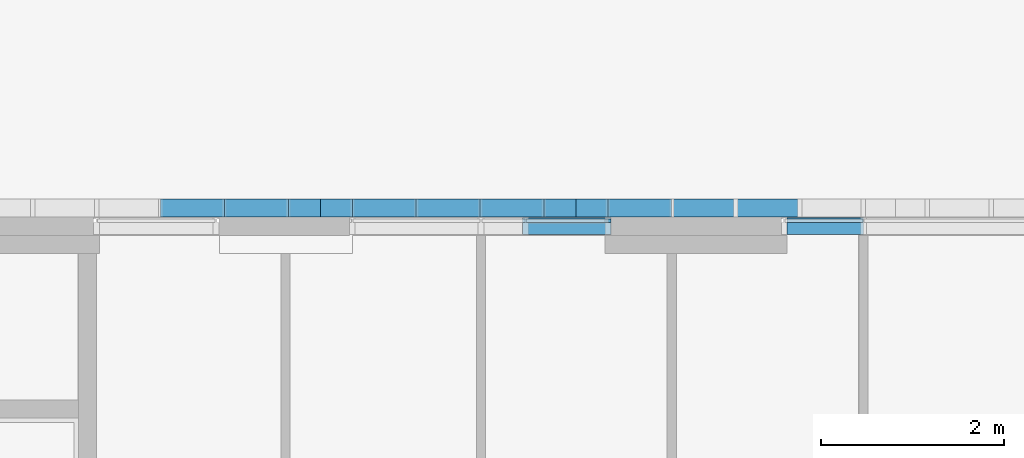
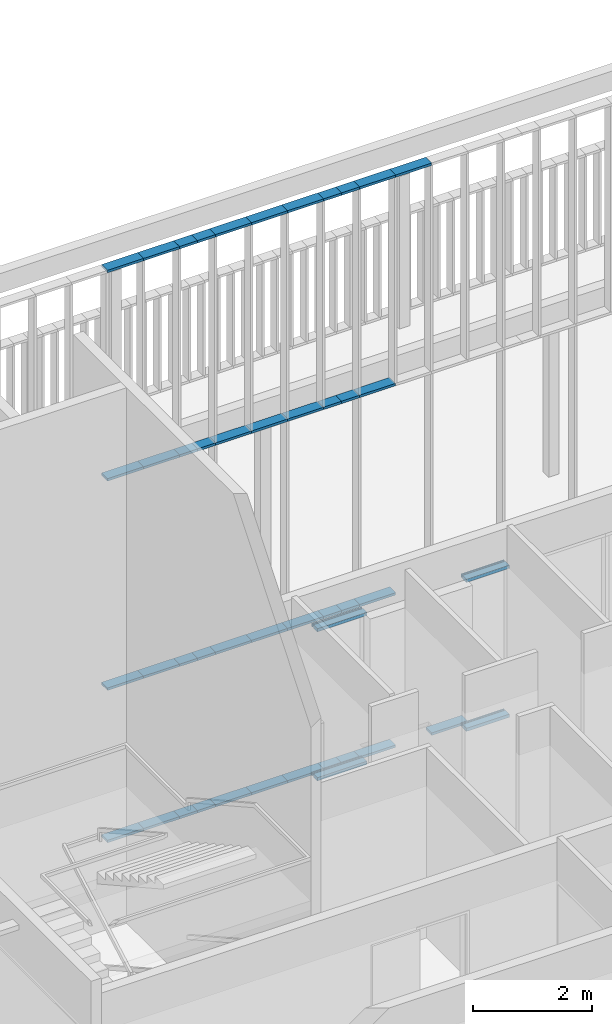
# One storey, part 50 of 240: 46 members, 3 elements without a shape of their own.
"""IFC2X3 building model written with IfcOpenShell, lengths in centimetres."""

from ifc_helpers import new_model, entity, si_unit, converted_unit, derived_unit, direction, frame, origin, origin_2d_with_axis, place, context, subcontext, project, spatial, polyline, rectangle, outline, extrude, source, transform, mapped, material, type_object, type_shapes, element, aggregate, save


model = new_model("IFC2X3")

# Units and contexts
model_context = context("Model", 3, precision=0.001, world=origin(), true_north=direction((6.12303176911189e-17, 1.0)))
body_context = subcontext(model_context, "Body", "Model", "MODEL_VIEW")
ifc_project = project(units=[si_unit("LENGTHUNIT", "METRE", prefix="CENTI"), si_unit("AREAUNIT", "SQUARE_METRE"), si_unit("VOLUMEUNIT", "CUBIC_METRE"), converted_unit("PLANEANGLEUNIT", "DEGREE", entity("IfcRatioMeasure", 0.0174532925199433), si_unit("PLANEANGLEUNIT", "RADIAN"), dimensions=[0, 0, 0, 0, 0, 0, 0]), si_unit("MASSUNIT", "GRAM", prefix="KILO"), derived_unit("MASSDENSITYUNIT", [(si_unit("MASSUNIT", "GRAM", prefix="KILO"), 1), (si_unit("LENGTHUNIT", "METRE"), -3)]), si_unit("TIMEUNIT", "SECOND"), si_unit("FREQUENCYUNIT", "HERTZ"), si_unit("THERMODYNAMICTEMPERATUREUNIT", "DEGREE_CELSIUS"), derived_unit("THERMALTRANSMITTANCEUNIT", [(si_unit("MASSUNIT", "GRAM", prefix="KILO"), 1), (si_unit("THERMODYNAMICTEMPERATUREUNIT", "KELVIN"), -1), (si_unit("TIMEUNIT", "SECOND"), -3)]), derived_unit("VOLUMETRICFLOWRATEUNIT", [(si_unit("LENGTHUNIT", "METRE"), 3), (si_unit("TIMEUNIT", "SECOND"), -1)]), si_unit("ELECTRICCURRENTUNIT", "AMPERE"), si_unit("ELECTRICVOLTAGEUNIT", "VOLT"), si_unit("POWERUNIT", "WATT"), si_unit("FORCEUNIT", "NEWTON", prefix="KILO"), si_unit("ILLUMINANCEUNIT", "LUX"), si_unit("LUMINOUSFLUXUNIT", "LUMEN"), si_unit("LUMINOUSINTENSITYUNIT", "CANDELA"), derived_unit("USERDEFINED", [(si_unit("MASSUNIT", "GRAM", prefix="KILO"), -1), (si_unit("LENGTHUNIT", "METRE"), -2), (si_unit("TIMEUNIT", "SECOND"), 3), (si_unit("LUMINOUSFLUXUNIT", "LUMEN"), 1)]), derived_unit("LINEARVELOCITYUNIT", [(si_unit("LENGTHUNIT", "METRE"), 1), (si_unit("TIMEUNIT", "SECOND"), -1)]), si_unit("PRESSUREUNIT", "PASCAL"), derived_unit("USERDEFINED", [(si_unit("LENGTHUNIT", "METRE"), -2), (si_unit("MASSUNIT", "GRAM", prefix="KILO"), 1), (si_unit("TIMEUNIT", "SECOND"), -2)])], contexts=[model_context])

# Site, building, storey
site_placement = place(None, frame((-2781.94577612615, 7442.24238424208, 0.0)))
site = spatial("IfcSite", under=ifc_project, at=site_placement, Name="Default", CompositionType="ELEMENT")
building_placement = place(site_placement, origin())
building = spatial("IfcBuilding", under=site, at=building_placement, CompositionType="ELEMENT")
storey_placement = place(building_placement, origin())
storey = spatial("IfcBuildingStorey", under=building, at=storey_placement, Name="N00 - COO", CompositionType="ELEMENT", Elevation=0.0)

# Curtain wall, members
curtain_wall_type_1 = type_object("IfcCurtainWallType", Name="Mur-rideau:07 - mur rideau trame 280 cm", PredefinedType="NOTDEFINED")
curtain_wall_1_placement = place(building_placement, origin())
curtain_wall_1 = element("IfcCurtainWall", 1, at=curtain_wall_1_placement, inside=storey, type_object=curtain_wall_type_1, Name="Mur-rideau:07 - mur rideau trame 280 cm", ObjectType="Mur-rideau:07 - mur rideau trame 280 cm")
ifc_material = material(Name="Aluminium")
member_type_1 = type_object("IfcMemberType", Name="150 x 25mm Détails", PredefinedType="MEMBER")
shared_shape_1 = source(origin(), body_context, "Body", "SweptSolid", [
    extrude(outline(polyline([(-13.3333333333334, -3.25000000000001), (0.166666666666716, -3.25000000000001), (0.166666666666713, -0.86874999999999), (3.66666666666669, -0.86874999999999), (3.66666666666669, -3.24999999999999), (5.66666666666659, -3.24999999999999), (5.66666666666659, 3.25), (3.66666666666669, 3.25), (3.66666666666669, 0.868749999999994), (0.166666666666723, 0.868749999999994), (0.166666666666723, 3.25000000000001), (-13.3333333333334, 3.24999999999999), (-13.3333333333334, -3.25000000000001)])), frame((-3.24999999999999, 1.96666666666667, -96.5000000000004), z_axis=(0.0, 0.0, 1.0), x_axis=(0.0, -1.0, 0.0)), (0.0, 0.0, 1.0), 96.5),
])
type_shapes(member_type_1, [shared_shape_1])
member_1_placement = place(building_placement, frame((-2646.04988284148, -1073.7999999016, 6.5), z_axis=(1.0, 0.0, 0.0), x_axis=(0.0, 0.0, 1.0)))
member_1 = element("IfcMember", 2, at=member_1_placement, type_object=member_type_1, material=ifc_material, Name="Meneau rectangulaire:150 x 25mm Détails", ObjectType="Meneau rectangulaire:150 x 25mm Détails", context=body_context, shape_type="MappedRepresentation", body=[
    mapped(shared_shape_1, transform((0.0, 0.0, 0.0), scale=1.0)),
])
member_type_2 = type_object("IfcMemberType", Name="150 x 25mm Détails", PredefinedType="MEMBER")
shared_shape_2 = source(origin(), body_context, "Body", "SweptSolid", [
    extrude(outline(polyline([(-13.3333333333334, -3.24999999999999), (0.166666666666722, -3.24999999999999), (0.166666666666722, -0.868749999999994), (3.66666666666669, -0.868749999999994), (3.66666666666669, -3.25), (5.66666666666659, -3.25), (5.66666666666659, 3.24999999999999), (3.66666666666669, 3.24999999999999), (3.66666666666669, 0.86874999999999), (0.166666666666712, 0.86874999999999), (0.166666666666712, 3.25000000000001), (-13.3333333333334, 3.25000000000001), (-13.3333333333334, -3.24999999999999)])), frame((-3.24999999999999, 1.96666666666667, -96.5000000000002), z_axis=(0.0, 0.0, 1.0), x_axis=(0.0, -1.0, 0.0)), (0.0, 0.0, 1.0), 96.5),
])
type_shapes(member_type_2, [shared_shape_2])
member_2_placement = place(building_placement, frame((-2742.54988284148, -1073.7999999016, 306.0), z_axis=(-1.0, 0.0, 0.0), x_axis=(0.0, 0.0, -1.0)))
member_2 = element("IfcMember", 3, at=member_2_placement, type_object=member_type_2, material=ifc_material, Name="Meneau rectangulaire:150 x 25mm Détails", ObjectType="Meneau rectangulaire:150 x 25mm Détails", context=body_context, shape_type="MappedRepresentation", body=[
    mapped(shared_shape_2, transform((0.0, 0.0, 0.0), scale=1.0)),
])
aggregate(curtain_wall_1, [member_1, member_2])

curtain_wall_type_2 = type_object("IfcCurtainWallType", Name="Mur-rideau:07 - mur rideau trame 90 cm", PredefinedType="NOTDEFINED")
curtain_wall_2_placement = place(building_placement, origin())
curtain_wall_2 = element("IfcCurtainWall", 4, at=curtain_wall_2_placement, inside=storey, type_object=curtain_wall_type_2, Name="Mur-rideau:07 - mur rideau trame 90 cm", ObjectType="Mur-rideau:07 - mur rideau trame 90 cm")
member_type_3 = type_object("IfcMemberType", Name="150 x 25mm Détails", PredefinedType="MEMBER")
shared_shape_3 = source(origin(), body_context, "Body", "SweptSolid", [
    extrude(outline(polyline([(-5.6666666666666, -3.24999999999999), (-3.66666666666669, -3.24999999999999), (-3.66666666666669, -0.868749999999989), (-0.166666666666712, -0.868749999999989), (-0.166666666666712, -3.25000000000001), (13.3333333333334, -3.25000000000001), (13.3333333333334, 3.24999999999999), (-0.16666666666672, 3.24999999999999), (-0.16666666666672, 0.868749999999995), (-3.66666666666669, 0.868749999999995), (-3.66666666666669, 3.25), (-5.6666666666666, 3.25), (-5.6666666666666, -3.24999999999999)])), frame((-3.24999999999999, -1.96666666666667, -83.5000000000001), z_axis=(0.0, 0.0, 1.0), x_axis=(0.0, -1.0, 0.0)), (0.0, 0.0, 1.0), 83.4999999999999),
])
type_shapes(member_type_3, [shared_shape_3])
member_3_placement = place(building_placement, frame((-2452.79988284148, -1073.7999999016, 312.5), z_axis=(-1.0, 0.0, 0.0), x_axis=(0.0, 0.0, 1.0)))
member_3 = element("IfcMember", 5, at=member_3_placement, type_object=member_type_3, material=ifc_material, Name="Meneau rectangulaire:150 x 25mm Détails", ObjectType="Meneau rectangulaire:150 x 25mm Détails", context=body_context, shape_type="MappedRepresentation", body=[
    mapped(shared_shape_3, transform((0.0, 0.0, 0.0), scale=1.0)),
])
member_type_4 = type_object("IfcMemberType", Name="150 x 25mm Détails", PredefinedType="MEMBER")
shared_shape_4 = source(origin(), body_context, "Body", "SweptSolid", [
    extrude(outline(polyline([(-5.66666666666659, -3.25), (-3.66666666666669, -3.25), (-3.66666666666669, -0.868749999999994), (-0.166666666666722, -0.868749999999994), (-0.166666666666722, -3.25000000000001), (13.3333333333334, -3.24999999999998), (13.3333333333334, 3.25000000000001), (-0.166666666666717, 3.25000000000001), (-0.166666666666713, 0.868749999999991), (-3.66666666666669, 0.868749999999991), (-3.66666666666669, 3.24999999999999), (-5.66666666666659, 3.24999999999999), (-5.66666666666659, -3.25)])), frame((-3.24999999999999, -1.96666666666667, -83.4999999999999), z_axis=(0.0, 0.0, 1.0), x_axis=(0.0, -1.0, 0.0)), (0.0, 0.0, 1.0), 83.4999999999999),
])
type_shapes(member_type_4, [shared_shape_4])
member_4_placement = place(building_placement, frame((-2369.29988284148, -1073.7999999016, 0.0), z_axis=(1.0, 0.0, 0.0), x_axis=(0.0, 0.0, -1.0)))
member_4 = element("IfcMember", 6, at=member_4_placement, type_object=member_type_4, material=ifc_material, Name="Meneau rectangulaire:150 x 25mm Détails", ObjectType="Meneau rectangulaire:150 x 25mm Détails", context=body_context, shape_type="MappedRepresentation", body=[
    mapped(shared_shape_4, transform((0.0, 0.0, 0.0), scale=1.0)),
])
aggregate(curtain_wall_2, [member_3, member_4])

curtain_wall_type_3 = type_object("IfcCurtainWallType", Name="Mur-rideau:Epines - 200x30mm", PredefinedType="NOTDEFINED")
curtain_wall_3_placement = place(storey_placement, origin())
curtain_wall_3 = element("IfcCurtainWall", 7, at=curtain_wall_3_placement, inside=storey, type_object=curtain_wall_type_3, Name="Mur-rideau:Epines - 200x30mm", ObjectType="Mur-rideau:Epines - 200x30mm")
member_type_5 = type_object("IfcMemberType", Name="200x50 mm", PredefinedType="MEMBER")
shared_shape_5 = source(origin(), body_context, "Body", "SweptSolid", [
    extrude(rectangle(XDim=20.0, YDim=5.0, at=origin_2d_with_axis()), frame((-2.5, 0.0, -70.0), z_axis=(0.0, 0.0, 1.0), x_axis=(0.0, -1.0, 0.0)), (0.0, 0.0, 1.0), 70.0000000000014),
])
type_shapes(member_type_5, [shared_shape_5])
member_5_placement = place(storey_placement, frame((-2509.29988284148, -1060.0, 1176.0), z_axis=(1.0, 0.0, 0.0), x_axis=(0.0, 0.0, 1.0)))
member_5 = element("IfcMember", 8, at=member_5_placement, type_object=member_type_5, material=ifc_material, Name="Meneau rectangulaire:200x50 mm", ObjectType="Meneau rectangulaire:200x50 mm", context=body_context, shape_type="MappedRepresentation", body=[
    mapped(shared_shape_5, transform((0.0, 0.0, 0.0), scale=1.0)),
])
member_6_placement = place(storey_placement, frame((-2789.29988284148, -1060.0, 1176.0), z_axis=(1.0, 0.0, 0.0), x_axis=(0.0, 0.0, 1.0)))
member_6 = element("IfcMember", 9, at=member_6_placement, type_object=member_type_5, material=ifc_material, Name="Meneau rectangulaire:200x50 mm", ObjectType="Meneau rectangulaire:200x50 mm", context=body_context, shape_type="MappedRepresentation", body=[
    mapped(shared_shape_5, transform((0.0, 0.0, 0.0), scale=1.0)),
])
member_7_placement = place(storey_placement, frame((-3069.29988284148, -1060.0, 1176.0), z_axis=(1.0, 0.0, 0.0), x_axis=(0.0, 0.0, 1.0)))
member_7 = element("IfcMember", 10, at=member_7_placement, type_object=member_type_5, material=ifc_material, Name="Meneau rectangulaire:200x50 mm", ObjectType="Meneau rectangulaire:200x50 mm", context=body_context, shape_type="MappedRepresentation", body=[
    mapped(shared_shape_5, transform((0.0, 0.0, 0.0), scale=1.0)),
])
member_8_placement = place(storey_placement, frame((-2579.29988284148, -1060.0, 1176.0), z_axis=(1.0, 0.0, 0.0), x_axis=(0.0, 0.0, 1.0)))
member_8 = element("IfcMember", 11, at=member_8_placement, type_object=member_type_5, material=ifc_material, Name="Meneau rectangulaire:200x50 mm", ObjectType="Meneau rectangulaire:200x50 mm", context=body_context, shape_type="MappedRepresentation", body=[
    mapped(shared_shape_5, transform((0.0, 0.0, 0.0), scale=1.0)),
])
member_9_placement = place(storey_placement, frame((-2719.29988284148, -1060.0, 1176.0), z_axis=(1.0, 0.0, 0.0), x_axis=(0.0, 0.0, 1.0)))
member_9 = element("IfcMember", 12, at=member_9_placement, type_object=member_type_5, material=ifc_material, Name="Meneau rectangulaire:200x50 mm", ObjectType="Meneau rectangulaire:200x50 mm", context=body_context, shape_type="MappedRepresentation", body=[
    mapped(shared_shape_5, transform((0.0, 0.0, 0.0), scale=1.0)),
])
member_10_placement = place(storey_placement, frame((-2859.29988284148, -1060.0, 1176.0), z_axis=(1.0, 0.0, 0.0), x_axis=(0.0, 0.0, 1.0)))
member_10 = element("IfcMember", 13, at=member_10_placement, type_object=member_type_5, material=ifc_material, Name="Meneau rectangulaire:200x50 mm", ObjectType="Meneau rectangulaire:200x50 mm", context=body_context, shape_type="MappedRepresentation", body=[
    mapped(shared_shape_5, transform((0.0, 0.0, 0.0), scale=1.0)),
])
member_11_placement = place(storey_placement, frame((-2999.29988284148, -1060.0, 1176.0), z_axis=(1.0, 0.0, 0.0), x_axis=(0.0, 0.0, 1.0)))
member_11 = element("IfcMember", 14, at=member_11_placement, type_object=member_type_5, material=ifc_material, Name="Meneau rectangulaire:200x50 mm", ObjectType="Meneau rectangulaire:200x50 mm", context=body_context, shape_type="MappedRepresentation", body=[
    mapped(shared_shape_5, transform((0.0, 0.0, 0.0), scale=1.0)),
])
member_type_6 = type_object("IfcMemberType", Name="200x50 mm", PredefinedType="MEMBER")
shared_shape_6 = source(origin(), body_context, "Body", "SweptSolid", [
    extrude(rectangle(XDim=20.0, YDim=5.0, at=origin_2d_with_axis()), frame((-2.5, 0.0, -70.0), z_axis=(0.0, 0.0, 1.0), x_axis=(0.0, -1.0, 0.0)), (0.0, 0.0, 1.0), 70.0000000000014),
])
type_shapes(member_type_6, [shared_shape_6])
member_12_placement = place(storey_placement, frame((-2649.29988284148, -1060.0, 0.0), z_axis=(-1.0, 0.0, 0.0), x_axis=(0.0, 0.0, -1.0)))
member_12 = element("IfcMember", 15, at=member_12_placement, type_object=member_type_6, material=ifc_material, Name="Meneau rectangulaire:200x50 mm", ObjectType="Meneau rectangulaire:200x50 mm", context=body_context, shape_type="MappedRepresentation", body=[
    mapped(shared_shape_6, transform((0.0, 0.0, 0.0), scale=1.0)),
])
member_13_placement = place(storey_placement, frame((-2929.29988284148, -1060.0, 0.0), z_axis=(-1.0, 0.0, 0.0), x_axis=(0.0, 0.0, -1.0)))
member_13 = element("IfcMember", 16, at=member_13_placement, type_object=member_type_6, material=ifc_material, Name="Meneau rectangulaire:200x50 mm", ObjectType="Meneau rectangulaire:200x50 mm", context=body_context, shape_type="MappedRepresentation", body=[
    mapped(shared_shape_6, transform((0.0, 0.0, 0.0), scale=1.0)),
])
member_type_7 = type_object("IfcMemberType", Name="200x50 mm", PredefinedType="MEMBER")
shared_shape_7 = source(origin(), body_context, "Body", "SweptSolid", [
    extrude(rectangle(XDim=20.0, YDim=5.0, at=origin_2d_with_axis()), frame((0.0, 0.0, -70.0), z_axis=(0.0, 0.0, 1.0), x_axis=(0.0, -1.0, 0.0)), (0.0, 0.0, 1.0), 70.0000000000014),
])
type_shapes(member_type_7, [shared_shape_7])
member_14_placement = place(storey_placement, frame((-2579.29988284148, -1060.0, 315.5), z_axis=(1.0, 0.0, 0.0), x_axis=(0.0, 0.0, 1.0)))
member_14 = element("IfcMember", 17, at=member_14_placement, type_object=member_type_7, material=ifc_material, Name="Meneau rectangulaire:200x50 mm", ObjectType="Meneau rectangulaire:200x50 mm", context=body_context, shape_type="MappedRepresentation", body=[
    mapped(shared_shape_7, transform((0.0, 0.0, 0.0), scale=1.0)),
])
member_15_placement = place(storey_placement, frame((-2859.29988284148, -1060.0, 315.5), z_axis=(1.0, 0.0, 0.0), x_axis=(0.0, 0.0, 1.0)))
member_15 = element("IfcMember", 18, at=member_15_placement, type_object=member_type_7, material=ifc_material, Name="Meneau rectangulaire:200x50 mm", ObjectType="Meneau rectangulaire:200x50 mm", context=body_context, shape_type="MappedRepresentation", body=[
    mapped(shared_shape_7, transform((0.0, 0.0, 0.0), scale=1.0)),
])
member_16_placement = place(storey_placement, frame((-2719.29988284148, -1060.0, 315.5), z_axis=(1.0, 0.0, 0.0), x_axis=(0.0, 0.0, 1.0)))
member_16 = element("IfcMember", 19, at=member_16_placement, type_object=member_type_7, material=ifc_material, Name="Meneau rectangulaire:200x50 mm", ObjectType="Meneau rectangulaire:200x50 mm", context=body_context, shape_type="MappedRepresentation", body=[
    mapped(shared_shape_7, transform((0.0, 0.0, 0.0), scale=1.0)),
])
member_17_placement = place(storey_placement, frame((-2999.29988284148, -1060.0, 315.5), z_axis=(1.0, 0.0, 0.0), x_axis=(0.0, 0.0, 1.0)))
member_17 = element("IfcMember", 20, at=member_17_placement, type_object=member_type_7, material=ifc_material, Name="Meneau rectangulaire:200x50 mm", ObjectType="Meneau rectangulaire:200x50 mm", context=body_context, shape_type="MappedRepresentation", body=[
    mapped(shared_shape_7, transform((0.0, 0.0, 0.0), scale=1.0)),
])
member_type_8 = type_object("IfcMemberType", Name="200x50 mm", PredefinedType="MEMBER")
shared_shape_8 = source(origin(), body_context, "Body", "SweptSolid", [
    extrude(rectangle(XDim=20.0, YDim=5.0, at=origin_2d_with_axis()), frame((0.0, 0.0, -70.0), z_axis=(0.0, 0.0, 1.0), x_axis=(0.0, -1.0, 0.0)), (0.0, 0.0, 1.0), 70.0000000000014),
])
type_shapes(member_type_8, [shared_shape_8])
member_18_placement = place(storey_placement, frame((-2579.29988284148, -1060.0, 745.5), z_axis=(1.0, 0.0, 0.0), x_axis=(0.0, 0.0, 1.0)))
member_18 = element("IfcMember", 21, at=member_18_placement, type_object=member_type_8, material=ifc_material, Name="Meneau rectangulaire:200x50 mm", ObjectType="Meneau rectangulaire:200x50 mm", context=body_context, shape_type="MappedRepresentation", body=[
    mapped(shared_shape_8, transform((0.0, 0.0, 0.0), scale=1.0)),
])
member_19_placement = place(storey_placement, frame((-2859.29988284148, -1060.0, 745.5), z_axis=(1.0, 0.0, 0.0), x_axis=(0.0, 0.0, 1.0)))
member_19 = element("IfcMember", 22, at=member_19_placement, type_object=member_type_8, material=ifc_material, Name="Meneau rectangulaire:200x50 mm", ObjectType="Meneau rectangulaire:200x50 mm", context=body_context, shape_type="MappedRepresentation", body=[
    mapped(shared_shape_8, transform((0.0, 0.0, 0.0), scale=1.0)),
])
member_20_placement = place(storey_placement, frame((-2719.29988284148, -1060.0, 745.5), z_axis=(1.0, 0.0, 0.0), x_axis=(0.0, 0.0, 1.0)))
member_20 = element("IfcMember", 23, at=member_20_placement, type_object=member_type_8, material=ifc_material, Name="Meneau rectangulaire:200x50 mm", ObjectType="Meneau rectangulaire:200x50 mm", context=body_context, shape_type="MappedRepresentation", body=[
    mapped(shared_shape_8, transform((0.0, 0.0, 0.0), scale=1.0)),
])
member_21_placement = place(storey_placement, frame((-2999.29988284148, -1060.0, 745.5), z_axis=(1.0, 0.0, 0.0), x_axis=(0.0, 0.0, 1.0)))
member_21 = element("IfcMember", 24, at=member_21_placement, type_object=member_type_8, material=ifc_material, Name="Meneau rectangulaire:200x50 mm", ObjectType="Meneau rectangulaire:200x50 mm", context=body_context, shape_type="MappedRepresentation", body=[
    mapped(shared_shape_8, transform((0.0, 0.0, 0.0), scale=1.0)),
])
member_22_placement = place(storey_placement, frame((-2789.29988284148, -1060.0, 745.5), z_axis=(1.0, 0.0, 0.0), x_axis=(0.0, 0.0, 1.0)))
member_22 = element("IfcMember", 25, at=member_22_placement, type_object=member_type_8, material=ifc_material, Name="Meneau rectangulaire:200x50 mm", ObjectType="Meneau rectangulaire:200x50 mm", context=body_context, shape_type="MappedRepresentation", body=[
    mapped(shared_shape_8, transform((0.0, 0.0, 0.0), scale=1.0)),
])
member_23_placement = place(storey_placement, frame((-3069.29988284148, -1060.0, 745.5), z_axis=(1.0, 0.0, 0.0), x_axis=(0.0, 0.0, 1.0)))
member_23 = element("IfcMember", 26, at=member_23_placement, type_object=member_type_8, material=ifc_material, Name="Meneau rectangulaire:200x50 mm", ObjectType="Meneau rectangulaire:200x50 mm", context=body_context, shape_type="MappedRepresentation", body=[
    mapped(shared_shape_8, transform((0.0, 0.0, 0.0), scale=1.0)),
])
member_type_9 = type_object("IfcMemberType", Name="200x50 mm", PredefinedType="MEMBER")
shared_shape_9 = source(origin(), body_context, "Body", "SweptSolid", [
    extrude(rectangle(XDim=20.0, YDim=5.0, at=origin_2d_with_axis()), frame((-2.5, 0.0, -70.0), z_axis=(0.0, 0.0, 1.0), x_axis=(0.0, -1.0, 0.0)), (0.0, 0.0, 1.0), 69.9999999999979),
])
type_shapes(member_type_9, [shared_shape_9])
member_24_placement = place(storey_placement, frame((-2509.29988284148, -1060.0, 0.0), z_axis=(-1.0, 0.0, 0.0), x_axis=(0.0, 0.0, -1.0)))
member_24 = element("IfcMember", 27, at=member_24_placement, type_object=member_type_9, material=ifc_material, Name="Meneau rectangulaire:200x50 mm", ObjectType="Meneau rectangulaire:200x50 mm", context=body_context, shape_type="MappedRepresentation", body=[
    mapped(shared_shape_9, transform((0.0, 0.0, 0.0), scale=1.0)),
])
member_25_placement = place(storey_placement, frame((-2789.29988284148, -1060.0, 0.0), z_axis=(-1.0, 0.0, 0.0), x_axis=(0.0, 0.0, -1.0)))
member_25 = element("IfcMember", 28, at=member_25_placement, type_object=member_type_9, material=ifc_material, Name="Meneau rectangulaire:200x50 mm", ObjectType="Meneau rectangulaire:200x50 mm", context=body_context, shape_type="MappedRepresentation", body=[
    mapped(shared_shape_9, transform((0.0, 0.0, 0.0), scale=1.0)),
])
member_26_placement = place(storey_placement, frame((-3069.29988284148, -1060.0, 0.0), z_axis=(-1.0, 0.0, 0.0), x_axis=(0.0, 0.0, -1.0)))
member_26 = element("IfcMember", 29, at=member_26_placement, type_object=member_type_9, material=ifc_material, Name="Meneau rectangulaire:200x50 mm", ObjectType="Meneau rectangulaire:200x50 mm", context=body_context, shape_type="MappedRepresentation", body=[
    mapped(shared_shape_9, transform((0.0, 0.0, 0.0), scale=1.0)),
])
member_27_placement = place(storey_placement, frame((-2859.29988284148, -1060.0, 0.0), z_axis=(-1.0, 0.0, 0.0), x_axis=(0.0, 0.0, -1.0)))
member_27 = element("IfcMember", 30, at=member_27_placement, type_object=member_type_9, material=ifc_material, Name="Meneau rectangulaire:200x50 mm", ObjectType="Meneau rectangulaire:200x50 mm", context=body_context, shape_type="MappedRepresentation", body=[
    mapped(shared_shape_9, transform((0.0, 0.0, 0.0), scale=1.0)),
])
member_28_placement = place(storey_placement, frame((-3139.29988284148, -1060.0, 0.0), z_axis=(-1.0, 0.0, 0.0), x_axis=(0.0, 0.0, -1.0)))
member_28 = element("IfcMember", 31, at=member_28_placement, type_object=member_type_9, material=ifc_material, Name="Meneau rectangulaire:200x50 mm", ObjectType="Meneau rectangulaire:200x50 mm", context=body_context, shape_type="MappedRepresentation", body=[
    mapped(shared_shape_9, transform((0.0, 0.0, 0.0), scale=1.0)),
])
member_type_10 = type_object("IfcMemberType", Name="200x50 mm", PredefinedType="MEMBER")
shared_shape_10 = source(origin(), body_context, "Body", "SweptSolid", [
    extrude(rectangle(XDim=20.0, YDim=5.0, at=origin_2d_with_axis()), frame((0.0, 0.0, -70.0), z_axis=(0.0, 0.0, 1.0), x_axis=(0.0, -1.0, 0.0)), (0.0, 0.0, 1.0), 70.0000000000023),
])
type_shapes(member_type_10, [shared_shape_10])
member_29_placement = place(storey_placement, frame((-2789.29988284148, -1060.0, 315.5), z_axis=(1.0, 0.0, 0.0), x_axis=(0.0, 0.0, 1.0)))
member_29 = element("IfcMember", 32, at=member_29_placement, type_object=member_type_10, material=ifc_material, Name="Meneau rectangulaire:200x50 mm", ObjectType="Meneau rectangulaire:200x50 mm", context=body_context, shape_type="MappedRepresentation", body=[
    mapped(shared_shape_10, transform((0.0, 0.0, 0.0), scale=1.0)),
])
member_30_placement = place(storey_placement, frame((-3069.29988284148, -1060.0, 315.5), z_axis=(1.0, 0.0, 0.0), x_axis=(0.0, 0.0, 1.0)))
member_30 = element("IfcMember", 33, at=member_30_placement, type_object=member_type_10, material=ifc_material, Name="Meneau rectangulaire:200x50 mm", ObjectType="Meneau rectangulaire:200x50 mm", context=body_context, shape_type="MappedRepresentation", body=[
    mapped(shared_shape_10, transform((0.0, 0.0, 0.0), scale=1.0)),
])
member_type_11 = type_object("IfcMemberType", Name="200x50 mm", PredefinedType="MEMBER")
shared_shape_11 = source(origin(), body_context, "Body", "SweptSolid", [
    extrude(rectangle(XDim=20.0, YDim=5.0, at=origin_2d_with_axis()), frame((-2.5, 0.0, -35.0), z_axis=(0.0, 0.0, 1.0), x_axis=(0.0, -1.0, 0.0)), (0.0, 0.0, 1.0), 35.0000000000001),
])
type_shapes(member_type_11, [shared_shape_11])
member_31_placement = place(storey_placement, frame((-2649.29988284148, -1060.0, 1176.0), z_axis=(1.0, 0.0, 0.0), x_axis=(0.0, 0.0, 1.0)))
member_31 = element("IfcMember", 34, at=member_31_placement, type_object=member_type_11, material=ifc_material, Name="Meneau rectangulaire:200x50 mm", ObjectType="Meneau rectangulaire:200x50 mm", context=body_context, shape_type="MappedRepresentation", body=[
    mapped(shared_shape_11, transform((0.0, 0.0, 0.0), scale=1.0)),
])
member_32_placement = place(storey_placement, frame((-2929.29988284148, -1060.0, 1176.0), z_axis=(1.0, 0.0, 0.0), x_axis=(0.0, 0.0, 1.0)))
member_32 = element("IfcMember", 35, at=member_32_placement, type_object=member_type_11, material=ifc_material, Name="Meneau rectangulaire:200x50 mm", ObjectType="Meneau rectangulaire:200x50 mm", context=body_context, shape_type="MappedRepresentation", body=[
    mapped(shared_shape_11, transform((0.0, 0.0, 0.0), scale=1.0)),
])
member_type_12 = type_object("IfcMemberType", Name="200x50 mm", PredefinedType="MEMBER")
shared_shape_12 = source(origin(), body_context, "Body", "SweptSolid", [
    extrude(rectangle(XDim=20.0, YDim=5.0, at=origin_2d_with_axis()), frame((0.0, 0.0, -35.0), z_axis=(0.0, 0.0, 1.0), x_axis=(0.0, -1.0, 0.0)), (0.0, 0.0, 1.0), 34.9999999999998),
])
type_shapes(member_type_12, [shared_shape_12])
member_33_placement = place(storey_placement, frame((-2684.29988284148, -1060.0, 745.5), z_axis=(1.0, 0.0, 0.0), x_axis=(0.0, 0.0, 1.0)))
member_33 = element("IfcMember", 36, at=member_33_placement, type_object=member_type_12, material=ifc_material, Name="Meneau rectangulaire:200x50 mm", ObjectType="Meneau rectangulaire:200x50 mm", context=body_context, shape_type="MappedRepresentation", body=[
    mapped(shared_shape_12, transform((0.0, 0.0, 0.0), scale=1.0)),
])
member_34_placement = place(storey_placement, frame((-2964.29988284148, -1060.0, 745.5), z_axis=(1.0, 0.0, 0.0), x_axis=(0.0, 0.0, 1.0)))
member_34 = element("IfcMember", 37, at=member_34_placement, type_object=member_type_12, material=ifc_material, Name="Meneau rectangulaire:200x50 mm", ObjectType="Meneau rectangulaire:200x50 mm", context=body_context, shape_type="MappedRepresentation", body=[
    mapped(shared_shape_12, transform((0.0, 0.0, 0.0), scale=1.0)),
])
member_type_13 = type_object("IfcMemberType", Name="200x50 mm", PredefinedType="MEMBER")
shared_shape_13 = source(origin(), body_context, "Body", "SweptSolid", [
    extrude(rectangle(XDim=20.0, YDim=5.0, at=origin_2d_with_axis()), frame((-2.5, 0.0, -35.0), z_axis=(0.0, 0.0, 1.0), x_axis=(0.0, -1.0, 0.0)), (0.0, 0.0, 1.0), 35.0000000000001),
])
type_shapes(member_type_13, [shared_shape_13])
member_35_placement = place(storey_placement, frame((-2719.29988284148, -1060.0, 0.0), z_axis=(-1.0, 0.0, 0.0), x_axis=(0.0, 0.0, -1.0)))
member_35 = element("IfcMember", 38, at=member_35_placement, type_object=member_type_13, material=ifc_material, Name="Meneau rectangulaire:200x50 mm", ObjectType="Meneau rectangulaire:200x50 mm", context=body_context, shape_type="MappedRepresentation", body=[
    mapped(shared_shape_13, transform((0.0, 0.0, 0.0), scale=1.0)),
])
member_36_placement = place(storey_placement, frame((-2999.29988284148, -1060.0, 0.0), z_axis=(-1.0, 0.0, 0.0), x_axis=(0.0, 0.0, -1.0)))
member_36 = element("IfcMember", 39, at=member_36_placement, type_object=member_type_13, material=ifc_material, Name="Meneau rectangulaire:200x50 mm", ObjectType="Meneau rectangulaire:200x50 mm", context=body_context, shape_type="MappedRepresentation", body=[
    mapped(shared_shape_13, transform((0.0, 0.0, 0.0), scale=1.0)),
])
member_type_14 = type_object("IfcMemberType", Name="200x50 mm", PredefinedType="MEMBER")
shared_shape_14 = source(origin(), body_context, "Body", "SweptSolid", [
    extrude(rectangle(XDim=20.0, YDim=5.0, at=origin_2d_with_axis()), frame((0.0, 0.0, -35.0), z_axis=(0.0, 0.0, 1.0), x_axis=(0.0, -1.0, 0.0)), (0.0, 0.0, 1.0), 35.0000000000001),
])
type_shapes(member_type_14, [shared_shape_14])
member_37_placement = place(storey_placement, frame((-2684.29988284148, -1060.0, 315.5), z_axis=(1.0, 0.0, 0.0), x_axis=(0.0, 0.0, 1.0)))
member_37 = element("IfcMember", 40, at=member_37_placement, type_object=member_type_14, material=ifc_material, Name="Meneau rectangulaire:200x50 mm", ObjectType="Meneau rectangulaire:200x50 mm", context=body_context, shape_type="MappedRepresentation", body=[
    mapped(shared_shape_14, transform((0.0, 0.0, 0.0), scale=1.0)),
])
member_38_placement = place(storey_placement, frame((-2964.29988284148, -1060.0, 315.5), z_axis=(1.0, 0.0, 0.0), x_axis=(0.0, 0.0, 1.0)))
member_38 = element("IfcMember", 41, at=member_38_placement, type_object=member_type_14, material=ifc_material, Name="Meneau rectangulaire:200x50 mm", ObjectType="Meneau rectangulaire:200x50 mm", context=body_context, shape_type="MappedRepresentation", body=[
    mapped(shared_shape_14, transform((0.0, 0.0, 0.0), scale=1.0)),
])
member_type_15 = type_object("IfcMemberType", Name="200x50 mm", PredefinedType="MEMBER")
shared_shape_15 = source(origin(), body_context, "Body", "SweptSolid", [
    extrude(rectangle(XDim=20.0, YDim=5.0, at=origin_2d_with_axis()), frame((-2.5, 0.0, -35.0), z_axis=(0.0, 0.0, 1.0), x_axis=(0.0, -1.0, 0.0)), (0.0, 0.0, 1.0), 34.9999999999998),
])
type_shapes(member_type_15, [shared_shape_15])
member_39_placement = place(storey_placement, frame((-2684.29988284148, -1060.0, 1176.0), z_axis=(1.0, 0.0, 0.0), x_axis=(0.0, 0.0, 1.0)))
member_39 = element("IfcMember", 42, at=member_39_placement, type_object=member_type_15, material=ifc_material, Name="Meneau rectangulaire:200x50 mm", ObjectType="Meneau rectangulaire:200x50 mm", context=body_context, shape_type="MappedRepresentation", body=[
    mapped(shared_shape_15, transform((0.0, 0.0, 0.0), scale=1.0)),
])
member_40_placement = place(storey_placement, frame((-2964.29988284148, -1060.0, 1176.0), z_axis=(1.0, 0.0, 0.0), x_axis=(0.0, 0.0, 1.0)))
member_40 = element("IfcMember", 43, at=member_40_placement, type_object=member_type_15, material=ifc_material, Name="Meneau rectangulaire:200x50 mm", ObjectType="Meneau rectangulaire:200x50 mm", context=body_context, shape_type="MappedRepresentation", body=[
    mapped(shared_shape_15, transform((0.0, 0.0, 0.0), scale=1.0)),
])
member_type_16 = type_object("IfcMemberType", Name="200x50 mm", PredefinedType="MEMBER")
shared_shape_16 = source(origin(), body_context, "Body", "SweptSolid", [
    extrude(rectangle(XDim=20.0, YDim=5.0, at=origin_2d_with_axis()), frame((0.0, 0.0, -35.0), z_axis=(0.0, 0.0, 1.0), x_axis=(0.0, -1.0, 0.0)), (0.0, 0.0, 1.0), 35.0000000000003),
])
type_shapes(member_type_16, [shared_shape_16])
member_41_placement = place(storey_placement, frame((-2649.29988284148, -1060.0, 315.5), z_axis=(1.0, 0.0, 0.0), x_axis=(0.0, 0.0, 1.0)))
member_41 = element("IfcMember", 44, at=member_41_placement, type_object=member_type_16, material=ifc_material, Name="Meneau rectangulaire:200x50 mm", ObjectType="Meneau rectangulaire:200x50 mm", context=body_context, shape_type="MappedRepresentation", body=[
    mapped(shared_shape_16, transform((0.0, 0.0, 0.0), scale=1.0)),
])
member_42_placement = place(storey_placement, frame((-2649.29988284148, -1060.0, 745.5), z_axis=(1.0, 0.0, 0.0), x_axis=(0.0, 0.0, 1.0)))
member_42 = element("IfcMember", 45, at=member_42_placement, type_object=member_type_16, material=ifc_material, Name="Meneau rectangulaire:200x50 mm", ObjectType="Meneau rectangulaire:200x50 mm", context=body_context, shape_type="MappedRepresentation", body=[
    mapped(shared_shape_16, transform((0.0, 0.0, 0.0), scale=1.0)),
])
member_43_placement = place(storey_placement, frame((-2929.29988284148, -1060.0, 315.5), z_axis=(1.0, 0.0, 0.0), x_axis=(0.0, 0.0, 1.0)))
member_43 = element("IfcMember", 46, at=member_43_placement, type_object=member_type_16, material=ifc_material, Name="Meneau rectangulaire:200x50 mm", ObjectType="Meneau rectangulaire:200x50 mm", context=body_context, shape_type="MappedRepresentation", body=[
    mapped(shared_shape_16, transform((0.0, 0.0, 0.0), scale=1.0)),
])
member_44_placement = place(storey_placement, frame((-2929.29988284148, -1060.0, 745.5), z_axis=(1.0, 0.0, 0.0), x_axis=(0.0, 0.0, 1.0)))
member_44 = element("IfcMember", 47, at=member_44_placement, type_object=member_type_16, material=ifc_material, Name="Meneau rectangulaire:200x50 mm", ObjectType="Meneau rectangulaire:200x50 mm", context=body_context, shape_type="MappedRepresentation", body=[
    mapped(shared_shape_16, transform((0.0, 0.0, 0.0), scale=1.0)),
])
member_type_17 = type_object("IfcMemberType", Name="200x50 mm", PredefinedType="MEMBER")
shared_shape_17 = source(origin(), body_context, "Body", "SweptSolid", [
    extrude(rectangle(XDim=20.0, YDim=5.0, at=origin_2d_with_axis()), frame((-2.5, 0.0, -35.0), z_axis=(0.0, 0.0, 1.0), x_axis=(0.0, -1.0, 0.0)), (0.0, 0.0, 1.0), 35.0000000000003),
])
type_shapes(member_type_17, [shared_shape_17])
member_45_placement = place(storey_placement, frame((-2684.29988284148, -1060.0, 0.0), z_axis=(-1.0, 0.0, 0.0), x_axis=(0.0, 0.0, -1.0)))
member_45 = element("IfcMember", 48, at=member_45_placement, type_object=member_type_17, material=ifc_material, Name="Meneau rectangulaire:200x50 mm", ObjectType="Meneau rectangulaire:200x50 mm", context=body_context, shape_type="MappedRepresentation", body=[
    mapped(shared_shape_17, transform((0.0, 0.0, 0.0), scale=1.0)),
])
member_46_placement = place(storey_placement, frame((-2964.29988284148, -1060.0, 0.0), z_axis=(-1.0, 0.0, 0.0), x_axis=(0.0, 0.0, -1.0)))
member_46 = element("IfcMember", 49, at=member_46_placement, type_object=member_type_17, material=ifc_material, Name="Meneau rectangulaire:200x50 mm", ObjectType="Meneau rectangulaire:200x50 mm", context=body_context, shape_type="MappedRepresentation", body=[
    mapped(shared_shape_17, transform((0.0, 0.0, 0.0), scale=1.0)),
])
aggregate(curtain_wall_3, [member_31, member_12, member_14, member_18, member_32, member_13, member_15, member_19, member_5, member_24, member_6, member_25, member_16, member_20, member_7, member_26, member_17, member_21, member_8, member_9, member_35, member_37, member_33, member_10, member_27, member_29, member_22, member_11, member_36, member_38, member_34, member_28, member_30, member_23, member_39, member_45, member_41, member_42, member_40, member_46, member_43, member_44])

save(model, "model.ifc")
